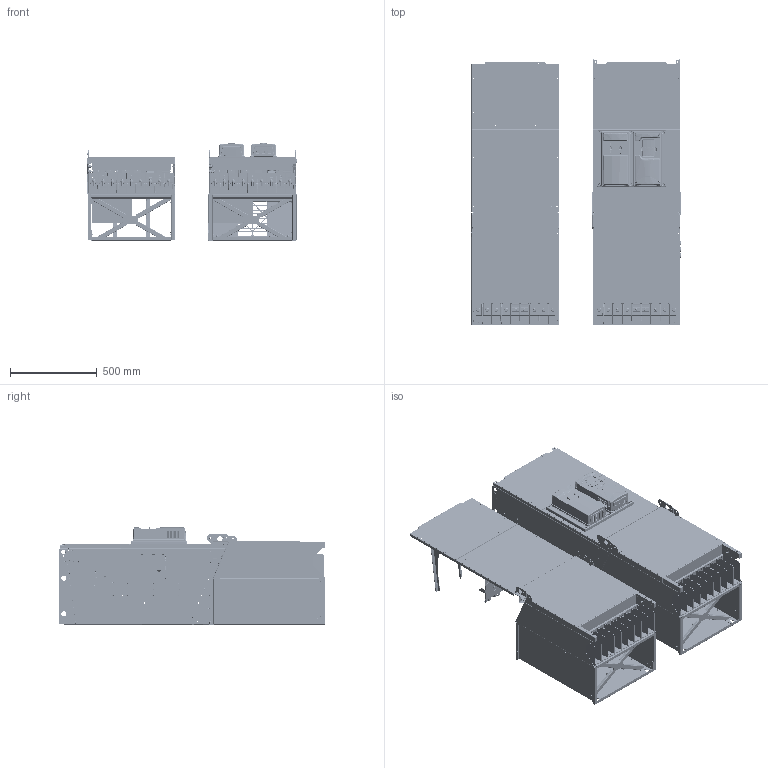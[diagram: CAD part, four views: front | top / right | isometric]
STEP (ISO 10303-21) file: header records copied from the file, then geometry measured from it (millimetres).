
FILE_DESCRIPTION((''),'2;1');
FILE_NAME('C:\temp\DG1_FN_(FR8-UL).stp','2017-12-20T17:52:48',('E0360149'),(''),'Autodesk Inventor 2013','Autodesk Inventor 2013','');
FILE_SCHEMA(('AUTOMOTIVE_DESIGN { 1 0 10303 214 1 1 1 1 }'));
Length unit declared in the file: inch
Products named in the file (1): DG1_FN_(FR8-UL)
Bounding box: 1205.47 x 1538.35 x 567.17 mm (x, y, z)
Volume: 21184198.4 mm3; surface area: 20313730.4 mm2
Topology: 81 solids, 138 shells, 33747 faces, 87633 edges, 55061 vertices
Faces by surface type: plane 16916, cylinder 10811, bspline 2983, cone 1277, torus 977, sphere 782, revolution 1
Full cylindrical faces by diameter (mm): 0.457 x1, 0.46 x80, 0.5 x92, 0.7 x8, 0.75 x16, 0.8 x14, 0.9 x2, 1 x3, 1.1 x4, 1.2 x3, 1.219 x10, 1.27 x4, 1.3 x5, 1.4 x8, 1.5 x3, 1.6 x2, 1.7 x5, 2 x54, 2.29 x22, 2.5 x5, 2.54 x32, 2.6 x6, 2.9 x1, 3 x8, 3.2 x3, 3.3 x45, 3.466 x8, 3.5 x43, 3.6 x79, 3.632 x22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
Entity records: 1273585 total; most frequent: CARTESIAN_POINT 444724, ORIENTED_EDGE 163638, DIRECTION 160016, EDGE_CURVE 81832, AXIS2_PLACEMENT_3D 55717, VERTEX_POINT 53900, VECTOR 48581, LINE 48581
